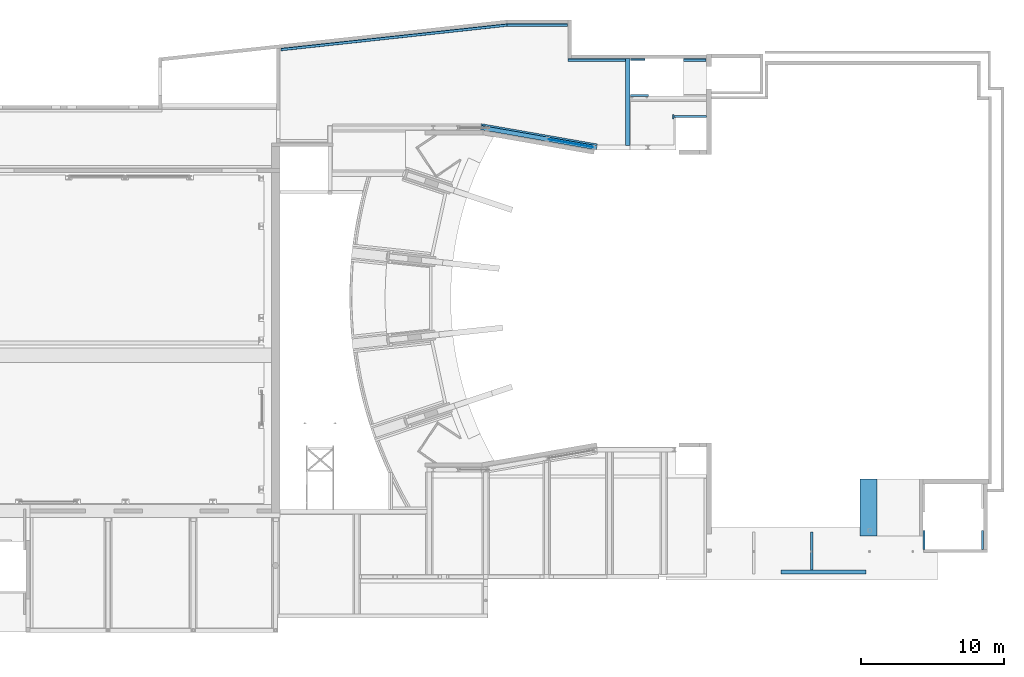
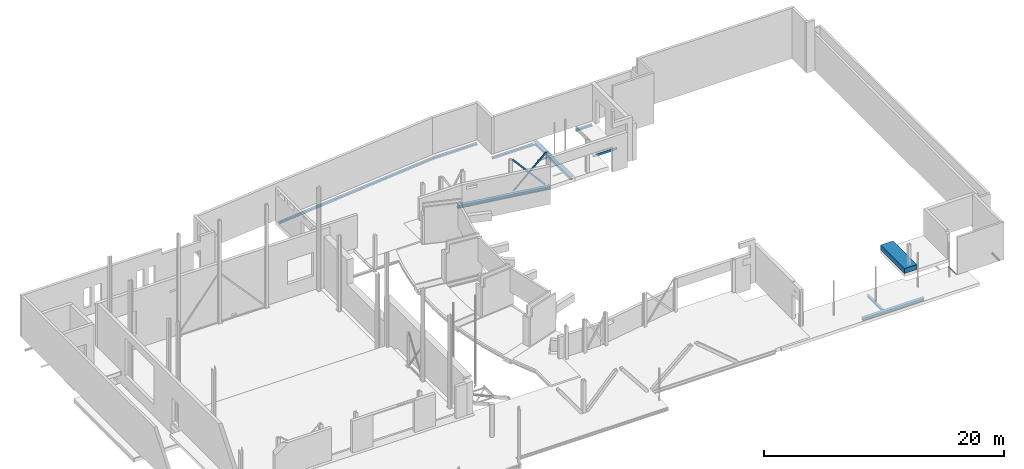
# One storey, part 19 of 37: 16 beams.
"""IFC2X3 building model written with IfcOpenShell, lengths in millimetres."""

from ifc_helpers import new_model, entity, si_unit, converted_unit, derived_unit, direction, frame, frame_2d, origin, origin_2d_with_axis, place, context, subcontext, project, spatial, polyline, circle_curve, parameter, trimmed, segment, composite_curve, rectangle, i_section, outline, extrude, source, transform, mapped, material, material_list, type_object, type_shapes, element, save


model = new_model("IFC2X3")

# Units and contexts
model_context = context("Model", 3, precision=0.01, world=origin(), true_north=direction((6.12303176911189e-17, 1.0)))
body_context = subcontext(model_context, "Body", "Model", "MODEL_VIEW")
ifc_project = project(units=[si_unit("LENGTHUNIT", "METRE", prefix="MILLI"), si_unit("AREAUNIT", "SQUARE_METRE", prefix="MILLI"), si_unit("VOLUMEUNIT", "CUBIC_METRE"), converted_unit("PLANEANGLEUNIT", "DEGREE", entity("IfcRatioMeasure", 0.0174532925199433), si_unit("PLANEANGLEUNIT", "RADIAN"), dimensions=[0, 0, 0, 0, 0, 0, 0]), si_unit("MASSUNIT", "GRAM", prefix="KILO"), derived_unit("MASSDENSITYUNIT", [(si_unit("MASSUNIT", "GRAM", prefix="KILO"), 1), (si_unit("LENGTHUNIT", "METRE"), -3)]), derived_unit("MOMENTOFINERTIAUNIT", [(si_unit("LENGTHUNIT", "METRE"), 4)]), si_unit("TIMEUNIT", "SECOND"), si_unit("FREQUENCYUNIT", "HERTZ"), si_unit("THERMODYNAMICTEMPERATUREUNIT", "DEGREE_CELSIUS"), derived_unit("THERMALTRANSMITTANCEUNIT", [(si_unit("MASSUNIT", "GRAM", prefix="KILO"), 1), (si_unit("THERMODYNAMICTEMPERATUREUNIT", "KELVIN"), -1), (si_unit("TIMEUNIT", "SECOND"), -3)]), derived_unit("VOLUMETRICFLOWRATEUNIT", [(si_unit("LENGTHUNIT", "METRE"), 3), (si_unit("TIMEUNIT", "SECOND"), -1)]), si_unit("ELECTRICCURRENTUNIT", "AMPERE"), si_unit("ELECTRICVOLTAGEUNIT", "VOLT"), si_unit("POWERUNIT", "WATT"), si_unit("FORCEUNIT", "NEWTON", prefix="KILO"), si_unit("ILLUMINANCEUNIT", "LUX"), si_unit("LUMINOUSFLUXUNIT", "LUMEN"), si_unit("LUMINOUSINTENSITYUNIT", "CANDELA"), derived_unit("USERDEFINED", [(si_unit("MASSUNIT", "GRAM", prefix="KILO"), -1), (si_unit("LENGTHUNIT", "METRE"), -2), (si_unit("TIMEUNIT", "SECOND"), 3), (si_unit("LUMINOUSFLUXUNIT", "LUMEN"), 1)]), derived_unit("LINEARVELOCITYUNIT", [(si_unit("LENGTHUNIT", "METRE"), 1), (si_unit("TIMEUNIT", "SECOND"), -1)]), si_unit("PRESSUREUNIT", "PASCAL"), derived_unit("USERDEFINED", [(si_unit("LENGTHUNIT", "METRE"), -2), (si_unit("MASSUNIT", "GRAM", prefix="KILO"), 1), (si_unit("TIMEUNIT", "SECOND"), -2)]), derived_unit("LINEARFORCEUNIT", [(si_unit("MASSUNIT", "GRAM", prefix="KILO"), 1), (si_unit("LENGTHUNIT", "METRE"), 1), (si_unit("TIMEUNIT", "SECOND"), -2), (si_unit("LENGTHUNIT", "METRE"), -1)]), derived_unit("PLANARFORCEUNIT", [(si_unit("MASSUNIT", "GRAM", prefix="KILO"), 1), (si_unit("LENGTHUNIT", "METRE"), 1), (si_unit("TIMEUNIT", "SECOND"), -2), (si_unit("LENGTHUNIT", "METRE"), -2)])], contexts=[model_context])

# Site, building, storey
site_placement = place(None, origin())
site = spatial("IfcSite", under=ifc_project, at=site_placement, Name="Theater aan de Parade", CompositionType="ELEMENT")
building_placement = place(site_placement, origin())
building = spatial("IfcBuilding", under=site, at=building_placement, Name="Theater aan de Parade", CompositionType="ELEMENT")
storey_placement = place(building_placement, frame((0.0, 0.0, 5020.0)))
storey = spatial("IfcBuildingStorey", under=building, at=storey_placement, Name="01 eerste verdieping", CompositionType="ELEMENT", Elevation=5020.0)

# Beams
ifc_material_1 = material(Name="00_PBT_MAT_staal_S355")
ifc_material_2 = material(Name="00_PBT_MAT_Lucht")
ifc_material_list_1 = material_list([ifc_material_1, ifc_material_2])
beam_type_1 = type_object("IfcBeamType", Name="28_PBT_SF_staal_H-profiel_met_ondergelaste_strip (void):S355_HE300B + ondergelaste strip d=15", PredefinedType="BEAM", material=ifc_material_list_1)
shared_shape_1 = source(origin(), body_context, "Body", "SweptSolid", [
    extrude(outline(composite_curve([segment(polyline([(131.0, -150.0), (150.0, -150.0)]), True, "CONTINUOUS"), segment(polyline([(150.0, -150.0), (150.0, 150.0)]), True, "CONTINUOUS"), segment(polyline([(150.0, 150.0), (131.0, 150.0)]), True, "CONTINUOUS"), segment(polyline([(131.0, 150.0), (131.0, 32.4999999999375)]), True, "CONTINUOUS"), segment(trimmed(circle_curve(frame_2d((104.0, 32.4999999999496), x_axis=(1.0, 0.0)), 26.9999999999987), [parameter(269.999999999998)], [parameter(0.0)], True, "PARAMETER"), False, "CONTINUOUS"), segment(polyline([(104.0, 5.49999999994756), (-104.0, 5.50000000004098)]), True, "CONTINUOUS"), segment(trimmed(circle_curve(frame_2d((-104.0, 32.500000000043), x_axis=(0.0, -1.0)), 26.9999999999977), [parameter(269.999999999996)], [parameter(0.0)], True, "PARAMETER"), False, "CONTINUOUS"), segment(polyline([(-131.0, 32.5000000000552), (-131.0, 150.0)]), True, "CONTINUOUS"), segment(polyline([(-131.0, 150.0), (-150.0, 150.0)]), True, "CONTINUOUS"), segment(polyline([(-150.0, 150.0), (-150.0, -150.0)]), True, "CONTINUOUS"), segment(polyline([(-150.0, -150.0), (-131.0, -150.0)]), True, "CONTINUOUS"), segment(polyline([(-131.0, -150.0), (-131.0, -32.4999999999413)]), True, "CONTINUOUS"), segment(trimmed(circle_curve(frame_2d((-104.0, -32.4999999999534), x_axis=(-1.0, 0.0)), 26.999999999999), [parameter(269.999999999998)], [parameter(0.0)], True, "PARAMETER"), False, "CONTINUOUS"), segment(polyline([(-104.0, -5.49999999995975), (104.0, -5.50000000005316)]), True, "CONTINUOUS"), segment(trimmed(circle_curve(frame_2d((104.0, -32.5000000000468), x_axis=(0.0, 1.0)), 26.9999999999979), [parameter(269.999999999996)], [parameter(0.0)], True, "PARAMETER"), False, "CONTINUOUS"), segment(polyline([(131.0, -32.5000000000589), (131.0, -150.0)]), True, "CONTINUOUS")], self_intersect=False)), frame((51544.7332149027, 44424.2922446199, 4705.0), z_axis=(0.985030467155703, -0.172380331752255, 0.0), x_axis=(0.0, 0.0, -1.0)), (0.0, 0.0, 1.0), 8227.18093451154),
    extrude(rectangle(XDim=14.9999999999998, YDim=419.999999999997, at=frame_2d((2.70450328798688e-13, -5.01643171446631e-12), x_axis=(1.0, 0.0))), frame((51556.9229669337, 44488.1468446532, 4547.5), z_axis=(0.985030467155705, -0.172380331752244, 0.0), x_axis=(0.0, 0.0, -1.0)), (0.0, 0.0, 1.0), 8225.18093451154),
])
type_shapes(beam_type_1, [shared_shape_1])
beam_1_placement = place(storey_placement, frame((0.0, 0.0, -5020.0)))
element("IfcBeam", 1, at=beam_1_placement, inside=storey, type_object=beam_type_1, material=ifc_material_1, Name="28_PBT_SF_staal_H-profiel_met_ondergelaste_strip (void):S355_HE300B + ondergelaste strip d=15", ObjectType="28_PBT_SF_staal_H-profiel_met_ondergelaste_strip (void):S355_HE300B + ondergelaste strip d=15", context=body_context, shape_type="MappedRepresentation", body=[
    mapped(shared_shape_1, transform((0.0, 0.0, 0.0), scale=1.0)),
])
beam_type_2 = type_object("IfcBeamType", Name="28_PBT_SF_staal_H-profiel (void):S355_HE280B", PredefinedType="NOTDEFINED")
beam_2_placement = place(storey_placement, frame((78500.0, 13292.0, 0.0), z_axis=(0.0, 0.0, 1.0), x_axis=(-1.0, 0.0, 0.0)))
element("IfcBeam", 2, at=beam_2_placement, inside=storey, type_object=beam_type_2, material=ifc_material_1, Name="28_PBT_SF_staal_H-profiel (void):S355_HE280B", ObjectType="28_PBT_SF_staal_H-profiel (void):S355_HE280B", context=body_context, shape_type="SweptSolid", body=[
    extrude(outline(composite_curve([segment(polyline([(122.0, -140.0), (140.0, -140.0)]), True, "CONTINUOUS"), segment(polyline([(140.0, -140.0), (140.0, 140.0)]), True, "CONTINUOUS"), segment(polyline([(140.0, 140.0), (122.0, 140.0)]), True, "CONTINUOUS"), segment(polyline([(122.0, 140.0), (122.0, 29.2500000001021)]), True, "CONTINUOUS"), segment(trimmed(circle_curve(frame_2d((98.0, 29.250000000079), x_axis=(1.0, 0.0)), 24.0000000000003), [parameter(270.000000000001)], [parameter(0.0)], True, "PARAMETER"), False, "CONTINUOUS"), segment(polyline([(98.0, 5.2500000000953), (-98.0, 5.24999999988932)]), True, "CONTINUOUS"), segment(trimmed(circle_curve(frame_2d((-98.0, 29.2499999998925), x_axis=(0.0, -1.0)), 24.0000000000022), [parameter(270.00000000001)], [parameter(0.0)], True, "PARAMETER"), False, "CONTINUOUS"), segment(polyline([(-122.0, 29.2499999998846), (-122.0, 140.0)]), True, "CONTINUOUS"), segment(polyline([(-122.0, 140.0), (-140.0, 140.0)]), True, "CONTINUOUS"), segment(polyline([(-140.0, 140.0), (-140.0, -140.0)]), True, "CONTINUOUS"), segment(polyline([(-140.0, -140.0), (-122.0, -140.0)]), True, "CONTINUOUS"), segment(polyline([(-122.0, -140.0), (-122.0, -29.2500000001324)]), True, "CONTINUOUS"), segment(trimmed(circle_curve(frame_2d((-98.0, -29.2500000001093), x_axis=(-1.0, 0.0)), 24.0000000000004), [parameter(270.0)], [parameter(0.0)], True, "PARAMETER"), False, "CONTINUOUS"), segment(polyline([(-98.0, -5.25000000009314), (98.0, -5.2499999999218)]), True, "CONTINUOUS"), segment(trimmed(circle_curve(frame_2d((98.0, -29.2499999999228), x_axis=(0.0, 1.0)), 24.0000000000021), [parameter(270.00000000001)], [parameter(0.0)], True, "PARAMETER"), False, "CONTINUOUS"), segment(polyline([(122.0, -29.2499999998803), (122.0, -140.0)]), True, "CONTINUOUS")], self_intersect=False)), frame((0.0, 0.0, -260.0), z_axis=(1.0, 0.0, 0.0), x_axis=(0.0, 0.0, -1.0)), (0.0, 0.0, 1.0), 5929.99999999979),
])
beam_type_3 = type_object("IfcBeamType", Name="28_PBT_SF_staal_L-profiel:S355_L150x150x15", PredefinedType="NOTDEFINED")
beam_3_placement = place(storey_placement, frame((62023.8822563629, 46634.3631171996, 0.0)))
element("IfcBeam", 3, at=beam_3_placement, inside=storey, type_object=beam_type_3, material=ifc_material_1, Name="28_PBT_SF_staal_L-profiel:S355_L150x150x15", ObjectType="28_PBT_SF_staal_L-profiel:S355_L150x150x15", context=body_context, shape_type="SweptSolid", body=[
    extrude(outline(composite_curve([segment(polyline([(-93.3333333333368, -56.6666666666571), (56.6666666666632, -56.6666666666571)]), True, "CONTINUOUS"), segment(polyline([(56.6666666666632, -56.6666666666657), (56.6666666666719, 93.3333333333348)]), True, "CONTINUOUS"), segment(polyline([(56.6666666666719, 93.3333333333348), (49.6666666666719, 93.3333333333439)]), True, "CONTINUOUS"), segment(trimmed(circle_curve(frame_2d((49.6666666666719, 85.3333333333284), x_axis=(0.0, 1.0)), 7.99999999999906), [parameter(0.0)], [parameter(90.0000000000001)], True, "PARAMETER"), True, "CONTINUOUS"), segment(polyline([(41.6666666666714, 85.3333333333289), (41.666666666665, -25.6666666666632)]), True, "CONTINUOUS"), segment(trimmed(circle_curve(frame_2d((25.6666666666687, -25.666666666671), x_axis=(1.0, 0.0)), 15.9999999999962), [parameter(269.999999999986)], [parameter(0.0)], True, "PARAMETER"), False, "CONTINUOUS"), segment(polyline([(25.6666666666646, -41.6666666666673), (-85.3333333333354, -41.6666666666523)]), True, "CONTINUOUS"), segment(trimmed(circle_curve(frame_2d((-85.3333333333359, -49.6666666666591), x_axis=(0.0, 1.0)), 7.99999999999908), [parameter(0.0)], [parameter(90.0000000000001)], True, "PARAMETER"), True, "CONTINUOUS"), segment(polyline([(-93.3333333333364, -49.6666666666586), (-93.3333333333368, -56.6666666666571)]), True, "CONTINUOUS")], self_intersect=False)), frame((0.0, 14.1666666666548, -2223.33333333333), z_axis=(1.0, 0.0, 0.0), x_axis=(0.0, 0.0, -1.0)), (0.0, 0.0, 1.0), 1239.98964556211),
])
beam_4_placement = place(storey_placement, frame((62023.8822563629, 49219.4979908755, 0.0)))
element("IfcBeam", 4, at=beam_4_placement, inside=storey, type_object=beam_type_3, material=ifc_material_1, Name="28_PBT_SF_staal_L-profiel:S355_L150x150x15", ObjectType="28_PBT_SF_staal_L-profiel:S355_L150x150x15", context=body_context, shape_type="SweptSolid", body=[
    extrude(outline(composite_curve([segment(polyline([(49.6666666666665, -93.3333333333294), (56.6666666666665, -93.3333333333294)]), True, "CONTINUOUS"), segment(polyline([(56.6666666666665, -93.3333333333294), (56.6666666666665, 56.6666666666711)]), True, "CONTINUOUS"), segment(polyline([(56.6666666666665, 56.6666666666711), (-93.3333333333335, 56.6666666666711)]), True, "CONTINUOUS"), segment(polyline([(-93.3333333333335, 56.6666666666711), (-93.3333333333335, 49.6666666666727)]), True, "CONTINUOUS"), segment(trimmed(circle_curve(frame_2d((-85.333333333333, 49.6666666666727), x_axis=(-1.0, 0.0)), 7.99999999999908), [parameter(0.0)], [parameter(90.0000000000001)], True, "PARAMETER"), True, "CONTINUOUS"), segment(polyline([(-85.333333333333, 41.6666666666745), (25.666666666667, 41.6666666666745)]), True, "CONTINUOUS"), segment(trimmed(circle_curve(frame_2d((25.6666666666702, 25.6666666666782), x_axis=(0.0, 1.0)), 15.9999999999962), [parameter(269.999999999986)], [parameter(0.0)], True, "PARAMETER"), False, "CONTINUOUS"), segment(polyline([(41.6666666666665, 25.6666666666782), (41.6666666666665, -85.3333333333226)]), True, "CONTINUOUS"), segment(trimmed(circle_curve(frame_2d((49.666666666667, -85.3333333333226), x_axis=(-1.0, 0.0)), 7.99999999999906), [parameter(0.0)], [parameter(90.0000000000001)], True, "PARAMETER"), True, "CONTINUOUS")], self_intersect=False)), frame((0.0, -14.1666666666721, -2223.33333333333), z_axis=(1.0, 0.0, 0.0), x_axis=(0.0, 0.0, -1.0)), (0.0, 0.0, 1.0), 1019.99734582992),
])
beam_5_placement = place(storey_placement, frame((82542.5084217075, 14850.0, 0.0), z_axis=(0.0, 0.0, 1.0), x_axis=(0.0, 1.0, 0.0)))
element("IfcBeam", 5, at=beam_5_placement, inside=storey, type_object=beam_type_3, material=ifc_material_1, Name="28_PBT_SF_staal_L-profiel:S355_L150x150x15", ObjectType="28_PBT_SF_staal_L-profiel:S355_L150x150x15", context=body_context, shape_type="SweptSolid", body=[
    extrude(outline(composite_curve([segment(polyline([(49.6666666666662, -93.3333333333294), (56.6666666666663, -93.3333333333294)]), True, "CONTINUOUS"), segment(polyline([(56.6666666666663, -93.3333333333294), (56.6666666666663, 56.6666666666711)]), True, "CONTINUOUS"), segment(polyline([(56.6666666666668, 56.6666666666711), (-93.3333333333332, 56.6666666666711)]), True, "CONTINUOUS"), segment(polyline([(-93.3333333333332, 56.6666666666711), (-93.3333333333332, 49.6666666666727)]), True, "CONTINUOUS"), segment(trimmed(circle_curve(frame_2d((-85.3333333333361, 49.6666666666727), x_axis=(-1.0, 0.0)), 7.9999999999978), [parameter(0.0)], [parameter(90.0000000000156)], True, "PARAMETER"), True, "CONTINUOUS"), segment(polyline([(-85.3333333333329, 41.6666666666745), (25.6666666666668, 41.6666666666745)]), True, "CONTINUOUS"), segment(trimmed(circle_curve(frame_2d((25.6666666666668, 25.6666666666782), x_axis=(0.0, 1.0)), 15.9999999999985), [parameter(269.999999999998)], [parameter(0.0)], True, "PARAMETER"), False, "CONTINUOUS"), segment(polyline([(41.6666666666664, 25.6666666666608), (41.6666666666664, -85.3333333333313)]), True, "CONTINUOUS"), segment(trimmed(circle_curve(frame_2d((49.6666666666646, -85.3333333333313), x_axis=(-1.0, 0.0)), 7.9999999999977), [parameter(0.0)], [parameter(90.0000000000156)], True, "PARAMETER"), True, "CONTINUOUS")], self_intersect=False)), frame((0.0, -14.1666666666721, -193.333333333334), z_axis=(1.0, 0.0, 0.0), x_axis=(0.0, 0.0, -1.0)), (0.0, 0.0, 1.0), 1330.00003057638),
])
beam_6_placement = place(storey_placement, frame((86723.499999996, 14850.0, 0.0), z_axis=(0.0, 0.0, 1.0), x_axis=(0.0, 1.0, 0.0)))
element("IfcBeam", 6, at=beam_6_placement, inside=storey, type_object=beam_type_3, material=ifc_material_1, Name="28_PBT_SF_staal_L-profiel:S355_L150x150x15", ObjectType="28_PBT_SF_staal_L-profiel:S355_L150x150x15", context=body_context, shape_type="SweptSolid", body=[
    extrude(outline(composite_curve([segment(polyline([(-93.3333333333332, -56.6666666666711), (56.6666666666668, -56.6666666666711)]), True, "CONTINUOUS"), segment(polyline([(56.6666666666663, -56.6666666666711), (56.6666666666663, 93.3333333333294)]), True, "CONTINUOUS"), segment(polyline([(56.6666666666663, 93.3333333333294), (49.6666666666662, 93.3333333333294)]), True, "CONTINUOUS"), segment(trimmed(circle_curve(frame_2d((49.6666666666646, 85.3333333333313), x_axis=(0.0, 1.0)), 7.9999999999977), [parameter(0.0)], [parameter(90.0000000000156)], True, "PARAMETER"), True, "CONTINUOUS"), segment(polyline([(41.6666666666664, 85.3333333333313), (41.6666666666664, -25.6666666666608)]), True, "CONTINUOUS"), segment(trimmed(circle_curve(frame_2d((25.6666666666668, -25.6666666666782), x_axis=(1.0, 0.0)), 15.9999999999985), [parameter(269.999999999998)], [parameter(0.0)], True, "PARAMETER"), False, "CONTINUOUS"), segment(polyline([(25.6666666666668, -41.6666666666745), (-85.3333333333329, -41.6666666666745)]), True, "CONTINUOUS"), segment(trimmed(circle_curve(frame_2d((-85.3333333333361, -49.6666666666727), x_axis=(0.0, 1.0)), 7.9999999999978), [parameter(0.0)], [parameter(90.0000000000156)], True, "PARAMETER"), True, "CONTINUOUS"), segment(polyline([(-93.3333333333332, -49.6666666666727), (-93.3333333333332, -56.6666666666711)]), True, "CONTINUOUS")], self_intersect=False)), frame((0.0, 14.1666666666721, -193.333333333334), z_axis=(1.0, 0.0, 0.0), x_axis=(0.0, 0.0, -1.0)), (0.0, 0.0, 1.0), 1330.00003059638),
])
beam_type_4 = type_object("IfcBeamType", Name="28_PBT_SF_staal_H-profiel (void):S355_HE300A", PredefinedType="NOTDEFINED")
beam_7_placement = place(storey_placement, frame((61833.8822563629, 49261.9979908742, 0.0), z_axis=(0.0, 0.0, 1.0), x_axis=(0.0, -1.0, 0.0)))
element("IfcBeam", 7, at=beam_7_placement, inside=storey, type_object=beam_type_4, material=ifc_material_1, Name="28_PBT_SF_staal_H-profiel (void):S355_HE300A", ObjectType="28_PBT_SF_staal_H-profiel (void):S355_HE300A", context=body_context, shape_type="SweptSolid", body=[
    extrude(i_section(OverallWidth=300.000000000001, OverallDepth=290.0, WebThickness=8.49999999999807, FlangeThickness=13.999999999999, FilletRadius=26.9999999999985, at=frame_2d((-2.70006239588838e-13, 0.0), x_axis=(0.0, 1.0))), frame((0.0, 0.0, -315.0), z_axis=(1.0, 0.0, 0.0), x_axis=(0.0, 0.0, -1.0)), (0.0, 0.0, 1.0), 6076.9979908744),
])
beam_type_5 = type_object("IfcBeamType", Name="28_PBT_SF_staal_L-profiel:S355_L200x200x20", PredefinedType="NOTDEFINED")
beam_8_placement = place(storey_placement, frame((57637.0315633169, 49205.1979908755, 0.0)))
element("IfcBeam", 8, at=beam_8_placement, inside=storey, type_object=beam_type_5, material=ifc_material_1, Name="28_PBT_SF_staal_L-profiel:S355_L200x200x20", ObjectType="28_PBT_SF_staal_L-profiel:S355_L200x200x20", context=body_context, shape_type="SweptSolid", body=[
    extrude(outline(composite_curve([segment(polyline([(64.5555555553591, -124.44444444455), (75.5555555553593, -124.44444444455)]), True, "CONTINUOUS"), segment(polyline([(75.5555555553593, -124.444444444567), (75.5555555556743, 75.5555555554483)]), True, "CONTINUOUS"), segment(polyline([(75.5555555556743, 75.5555555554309), (-124.444444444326, 75.5555555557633)]), True, "CONTINUOUS"), segment(polyline([(-124.444444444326, 75.5555555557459), (-124.444444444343, 64.5555555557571)]), True, "CONTINUOUS"), segment(trimmed(circle_curve(frame_2d((-115.444444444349, 64.5555555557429), x_axis=(-1.0, 0.0)), 8.99999999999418), [parameter(0.0)], [parameter(90.000000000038)], True, "PARAMETER"), True, "CONTINUOUS"), segment(polyline([(-115.444444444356, 55.5555555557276), (37.5555555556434, 55.555555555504)]), True, "CONTINUOUS"), segment(trimmed(circle_curve(frame_2d((37.5555555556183, 37.5555555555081), x_axis=(0.0, 1.0)), 17.9999999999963), [parameter(269.999999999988)], [parameter(0.0)], True, "PARAMETER"), False, "CONTINUOUS"), segment(polyline([(55.5555555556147, 37.5555555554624), (55.5555555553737, -115.44444444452)]), True, "CONTINUOUS"), segment(trimmed(circle_curve(frame_2d((64.5555555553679, -115.444444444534), x_axis=(-1.0, 0.0)), 8.99999999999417), [parameter(0.0)], [parameter(90.000000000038)], True, "PARAMETER"), True, "CONTINUOUS")], self_intersect=False)), frame((0.0, -18.7555555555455, -409.444444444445), z_axis=(1.0, 0.0, 0.0), x_axis=(0.0, 0.0, -1.0)), (0.0, 0.0, 1.0), 4026.85069304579),
])
beam_9_placement = place(storey_placement, frame((65713.8822564, 49205.1979908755, 0.0)))
element("IfcBeam", 9, at=beam_9_placement, inside=storey, type_object=beam_type_5, material=ifc_material_1, Name="28_PBT_SF_staal_L-profiel:S355_L200x200x20", ObjectType="28_PBT_SF_staal_L-profiel:S355_L200x200x20", context=body_context, shape_type="SweptSolid", body=[
    extrude(outline(composite_curve([segment(polyline([(64.5555555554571, -124.444444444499), (75.5555555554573, -124.444444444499)]), True, "CONTINUOUS"), segment(polyline([(75.5555555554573, -124.444444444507), (75.5555555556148, 75.5555555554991)]), True, "CONTINUOUS"), segment(polyline([(75.5555555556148, 75.5555555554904), (-124.444444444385, 75.5555555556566)]), True, "CONTINUOUS"), segment(polyline([(-124.444444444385, 75.5555555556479), (-124.444444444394, 64.5555555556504)]), True, "CONTINUOUS"), segment(trimmed(circle_curve(frame_2d((-115.4444444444, 64.5555555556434), x_axis=(-1.0, 0.0)), 8.99999999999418), [parameter(0.0)], [parameter(90.000000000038)], True, "PARAMETER"), True, "CONTINUOUS"), segment(polyline([(-115.4444444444, 55.5555555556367), (37.5555555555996, 55.5555555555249)]), True, "CONTINUOUS"), segment(trimmed(circle_curve(frame_2d((37.5555555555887, 37.555555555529), x_axis=(0.0, 1.0)), 17.9999999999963), [parameter(269.999999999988)], [parameter(0.0)], True, "PARAMETER"), False, "CONTINUOUS"), segment(polyline([(55.5555555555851, 37.5555555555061), (55.5555555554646, -115.444444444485)]), True, "CONTINUOUS"), segment(trimmed(circle_curve(frame_2d((64.5555555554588, -115.444444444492), x_axis=(-1.0, 0.0)), 8.99999999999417), [parameter(0.0)], [parameter(90.000000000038)], True, "PARAMETER"), True, "CONTINUOUS")], self_intersect=False)), frame((0.0, -18.7555555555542, -409.444444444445), z_axis=(1.0, 0.0, 0.0), x_axis=(0.0, 0.0, -1.0)), (0.0, 0.0, 1.0), 1599.9999959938),
])
beam_10_placement = place(storey_placement, frame((53374.7658254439, 51653.719112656, 0.0)))
element("IfcBeam", 10, at=beam_10_placement, inside=storey, type_object=beam_type_5, material=ifc_material_1, Name="28_PBT_SF_staal_L-profiel:S355_L200x200x20", ObjectType="28_PBT_SF_staal_L-profiel:S355_L200x200x20", context=body_context, shape_type="SweptSolid", body=[
    extrude(outline(composite_curve([segment(polyline([(64.5555555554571, -124.444444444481), (75.5555555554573, -124.444444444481)]), True, "CONTINUOUS"), segment(polyline([(75.5555555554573, -124.444444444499), (75.5555555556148, 75.5555555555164)]), True, "CONTINUOUS"), segment(polyline([(75.5555555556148, 75.5555555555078), (-124.444444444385, 75.5555555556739)]), True, "CONTINUOUS"), segment(polyline([(-124.444444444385, 75.5555555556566), (-124.444444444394, 64.5555555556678)]), True, "CONTINUOUS"), segment(trimmed(circle_curve(frame_2d((-115.4444444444, 64.5555555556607), x_axis=(-1.0, 0.0)), 8.99999999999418), [parameter(0.0)], [parameter(90.000000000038)], True, "PARAMETER"), True, "CONTINUOUS"), segment(polyline([(-115.4444444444, 55.555555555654), (37.5555555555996, 55.5555555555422)]), True, "CONTINUOUS"), segment(trimmed(circle_curve(frame_2d((37.5555555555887, 37.5555555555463), x_axis=(0.0, 1.0)), 17.9999999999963), [parameter(269.999999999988)], [parameter(0.0)], True, "PARAMETER"), False, "CONTINUOUS"), segment(polyline([(55.5555555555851, 37.5555555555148), (55.5555555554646, -115.444444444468)]), True, "CONTINUOUS"), segment(trimmed(circle_curve(frame_2d((64.5555555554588, -115.444444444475), x_axis=(-1.0, 0.0)), 8.99999999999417), [parameter(0.0)], [parameter(90.000000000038)], True, "PARAMETER"), True, "CONTINUOUS")], self_intersect=False)), frame((0.0, -18.7555555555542, -409.444444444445), z_axis=(1.0, 0.0, 0.0), x_axis=(0.0, 0.0, -1.0)), (0.0, 0.0, 1.0), 4240.00000000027),
])
beam_11_placement = place(storey_placement, frame((37527.7835826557, 49934.197726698, 0.0), z_axis=(0.0, 0.0, 1.0), x_axis=(0.994164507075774, 0.107874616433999, 0.0)))
element("IfcBeam", 11, at=beam_11_placement, inside=storey, type_object=beam_type_5, material=ifc_material_1, Name="28_PBT_SF_staal_L-profiel:S355_L200x200x20", ObjectType="28_PBT_SF_staal_L-profiel:S355_L200x200x20", context=body_context, shape_type="SweptSolid", body=[
    extrude(outline(composite_curve([segment(polyline([(64.5555555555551, -124.444444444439), (75.5555555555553, -124.444444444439)]), True, "CONTINUOUS"), segment(polyline([(75.5555555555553, -124.444444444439), (75.5555555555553, 75.5555555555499)]), True, "CONTINUOUS"), segment(polyline([(75.5555555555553, 75.5555555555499), (-124.444444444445, 75.5555555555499)]), True, "CONTINUOUS"), segment(polyline([(-124.444444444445, 75.5555555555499), (-124.444444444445, 64.5555555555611)]), True, "CONTINUOUS"), segment(trimmed(circle_curve(frame_2d((-115.444444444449, 64.5555555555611), x_axis=(-1.0, 0.0)), 8.99999999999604), [parameter(0.0)], [parameter(90.0000000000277)], True, "PARAMETER"), True, "CONTINUOUS"), segment(polyline([(-115.444444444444, 55.5555555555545), (37.5555555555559, 55.5555555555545)]), True, "CONTINUOUS"), segment(trimmed(circle_curve(frame_2d((37.5555555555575, 37.5555555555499), x_axis=(0.0, 1.0)), 17.9999999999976), [parameter(269.999999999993)], [parameter(0.0)], True, "PARAMETER"), False, "CONTINUOUS"), segment(polyline([(55.5555555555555, 37.5555555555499), (55.5555555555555, -115.444444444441)]), True, "CONTINUOUS"), segment(trimmed(circle_curve(frame_2d((64.5555555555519, -115.444444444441), x_axis=(-1.0, 0.0)), 8.99999999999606), [parameter(0.0)], [parameter(90.0000000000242)], True, "PARAMETER"), True, "CONTINUOUS")], self_intersect=False)), frame((0.0, -18.7555555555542, -409.444444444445), z_axis=(1.0, 0.0, 0.0), x_axis=(0.0, 0.0, -1.0)), (0.0, 0.0, 1.0), 15939.9999999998),
])
beam_type_6 = type_object("IfcBeamType", Name="28_PBT_SF_staal_H-profiel:S355_HE200A", PredefinedType="NOTDEFINED")
beam_12_placement = place(storey_placement, frame((74711.8589693, 16087.0, 0.0), z_axis=(0.0, 0.0, 1.0), x_axis=(0.0, -1.0, 0.0)))
element("IfcBeam", 12, at=beam_12_placement, inside=storey, type_object=beam_type_6, material=ifc_material_1, Name="28_PBT_SF_staal_H-profiel:S355_HE200A", ObjectType="28_PBT_SF_staal_H-profiel:S355_HE200A", context=body_context, shape_type="SweptSolid", body=[
    extrude(outline(composite_curve([segment(polyline([(85.0, -100.0), (95.0, -100.0)]), True, "CONTINUOUS"), segment(polyline([(95.0, -100.0), (95.0, 100.0)]), True, "CONTINUOUS"), segment(polyline([(95.0, 100.0), (85.0, 100.0)]), True, "CONTINUOUS"), segment(polyline([(85.0, 100.0), (85.0, 21.2499999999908)]), True, "CONTINUOUS"), segment(trimmed(circle_curve(frame_2d((67.0, 21.2499999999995), x_axis=(1.0, 0.0)), 17.9999999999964), [parameter(269.999999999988)], [parameter(0.0)], True, "PARAMETER"), False, "CONTINUOUS"), segment(polyline([(67.0, 3.24999999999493), (-67.0, 3.24999999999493)]), True, "CONTINUOUS"), segment(trimmed(circle_curve(frame_2d((-67.0, 21.2499999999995), x_axis=(0.0, -1.0)), 17.9999999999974), [parameter(269.99999999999)], [parameter(0.0)], True, "PARAMETER"), False, "CONTINUOUS"), segment(polyline([(-85.0, 21.2499999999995), (-85.0, 100.0)]), True, "CONTINUOUS"), segment(polyline([(-85.0, 100.0), (-95.0, 100.0)]), True, "CONTINUOUS"), segment(polyline([(-95.0, 100.0), (-95.0, -100.0)]), True, "CONTINUOUS"), segment(polyline([(-95.0, -100.0), (-85.0, -100.0)]), True, "CONTINUOUS"), segment(polyline([(-85.0, -100.0), (-85.0, -21.2499999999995)]), True, "CONTINUOUS"), segment(trimmed(circle_curve(frame_2d((-67.0, -21.2499999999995), x_axis=(-1.0, 0.0)), 17.9999999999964), [parameter(269.999999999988)], [parameter(0.0)], True, "PARAMETER"), False, "CONTINUOUS"), segment(polyline([(-67.0, -3.25000000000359), (67.0, -3.25000000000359)]), True, "CONTINUOUS"), segment(trimmed(circle_curve(frame_2d((67.0, -21.2499999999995), x_axis=(0.0, 1.0)), 17.9999999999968), [parameter(269.99999999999)], [parameter(0.0)], True, "PARAMETER"), False, "CONTINUOUS"), segment(polyline([(85.0, -21.2499999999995), (85.0, -100.0)]), True, "CONTINUOUS")], self_intersect=False)), frame((0.0, 0.0, -305.0), z_axis=(1.0, 0.0, 0.0), x_axis=(0.0, 0.0, -1.0)), (0.0, 0.0, 1.0), 2654.99999999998),
])
ifc_material_3 = material(Name="00_PBT_MAT_staal")
beam_type_7 = type_object("IfcBeamType", Name="28_PBT_SF_staal_strip:strip 10x150", PredefinedType="NOTDEFINED")
beam_13_placement = place(storey_placement, frame((56185.6044607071, 43612.1397766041, -250.0), z_axis=(0.753035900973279, 0.100611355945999, -0.650241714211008), x_axis=(0.65797943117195, -0.115146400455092, 0.744180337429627)))
element("IfcBeam", 13, at=beam_13_placement, inside=storey, type_object=beam_type_7, material=ifc_material_3, Name="28_PBT_SF_staal_strip:strip 10x150", ObjectType="28_PBT_SF_staal_strip:strip 10x150", context=body_context, shape_type="SweptSolid", body=[
    extrude(rectangle(XDim=150.000000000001, YDim=10.0000000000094, at=frame_2d((-5.01243491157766e-12, 4.43378667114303e-12), x_axis=(0.0, 1.0))), frame((397.603192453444, 0.0, 0.0), z_axis=(1.0, 0.0, 0.0), x_axis=(0.0, -0.973446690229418, 0.228913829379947)), (0.0, 0.0, 1.0), 4364.40250041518),
])
beam_14_placement = place(storey_placement, frame((59483.5460413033, 43035.0, -250.0), z_axis=(0.753035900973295, 0.100611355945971, 0.650241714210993), x_axis=(-0.657979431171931, 0.115146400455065, 0.744180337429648)))
element("IfcBeam", 14, at=beam_14_placement, inside=storey, type_object=beam_type_7, material=ifc_material_3, Name="28_PBT_SF_staal_strip:strip 10x150", ObjectType="28_PBT_SF_staal_strip:strip 10x150", context=body_context, shape_type="SweptSolid", body=[
    extrude(rectangle(XDim=150.000000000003, YDim=9.99999999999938, at=frame_2d((-1.10844666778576e-12, 8.53317416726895e-12), x_axis=(1.0, 0.0))), frame((397.603192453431, 0.0, 0.0), z_axis=(1.0, 0.0, 0.0), x_axis=(0.0, 0.228913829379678, 0.973446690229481)), (0.0, 0.0, 1.0), 4364.40250041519),
])
ifc_material_list_2 = material_list([ifc_material_3, ifc_material_3])
ifc_material_list_3 = material_list([ifc_material_3, ifc_material_3])
beam_type_8 = type_object("IfcBeamType", Name="28_PBT_SF_raveelijzer:L-staal h=200", PredefinedType="BEAM", material=ifc_material_list_3)
shared_shape_2 = source(origin(), body_context, "Body", "SweptSolid", [
    extrude(outline(polyline([(-113.0, -86.0), (-113.0, -101.0), (37.0, -101.0), (37.0, -86.0), (37.0, 124.0), (37.0, 149.0), (22.0, 149.0), (22.0, 124.0), (22.0, -86.0), (12.0, -86.0), (-113.0, -86.0)])), frame((65076.2561009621, 45154.5638256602, 4646.0), z_axis=(-1.0, 0.0, 0.0), x_axis=(0.0, -1.0, 0.0)), (0.0, 0.0, -1.0), 2267.29999999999),
    extrude(outline(polyline([(-119.166666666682, -17.1337806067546), (-119.166666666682, -27.1337806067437), (-111.666666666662, -27.1337806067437), (98.3333333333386, -27.1337806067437), (98.3333333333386, 72.8662193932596), (88.3333333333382, 72.8662193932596), (88.3333333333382, -12.9297551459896), (88.3333333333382, -17.1337806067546), (-111.666666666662, -17.1337806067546), (-119.166666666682, -17.1337806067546)])), frame((65049.1223203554, 45032.5639256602, 4671.66666666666), z_axis=(0.0, -1.0, 0.0), x_axis=(0.0, 0.0, 1.0)), (0.0, 0.0, -1.0), 300.00000000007),
])
type_shapes(beam_type_8, [shared_shape_2])
beam_15_placement = place(storey_placement, frame((0.0, 0.0, -5020.0)))
element("IfcBeam", 15, at=beam_15_placement, inside=storey, type_object=beam_type_8, material=ifc_material_list_2, Name="28_PBT_SF_raveelijzer:L-staal h=200", ObjectType="28_PBT_SF_raveelijzer:L-staal h=200", context=body_context, shape_type="MappedRepresentation", body=[
    mapped(shared_shape_2, transform((0.0, 0.0, 0.0), scale=1.0)),
])
ifc_material_4 = material(Name="00_PBT_MAT_beton t.p.g._C30/37")
beam_type_9 = type_object("IfcBeamType", Name="28_PBT_SF_betonbalk:C30/37_1200x800", PredefinedType="NOTDEFINED")
beam_16_placement = place(storey_placement, frame((78700.1000324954, 15809.9960954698, 0.0), z_axis=(0.0, 0.0, 1.0), x_axis=(0.0, 1.0, 0.0)))
element("IfcBeam", 16, at=beam_16_placement, inside=storey, type_object=beam_type_9, material=ifc_material_4, Name="28_PBT_SF_betonbalk:C30/37_1200x800", ObjectType="28_PBT_SF_betonbalk:C30/37_1200x800", context=body_context, shape_type="SweptSolid", body=[
    extrude(rectangle(XDim=479.999999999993, YDim=1200.0, at=origin_2d_with_axis()), frame((0.0, 0.0, 1140.0), z_axis=(1.0, 0.0, 0.0), x_axis=(0.0, 0.0, -1.0)), (0.0, 0.0, 1.0), 4000.00414805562),
])

save(model, "model.ifc")
